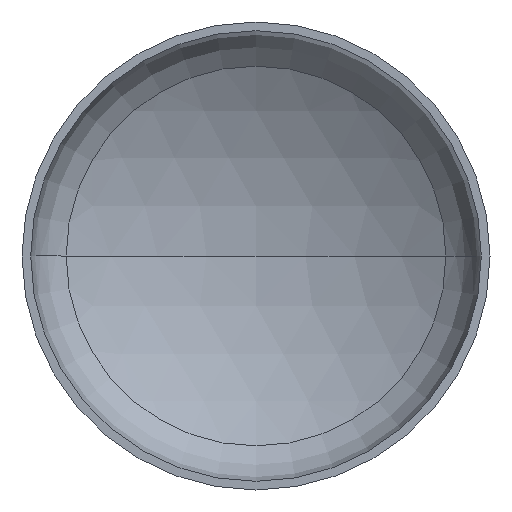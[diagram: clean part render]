
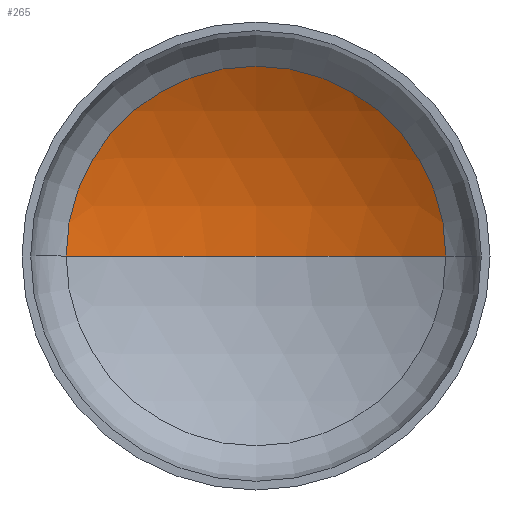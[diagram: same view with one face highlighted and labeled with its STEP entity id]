
A CAD part, front view. The second image highlights one B-rep face of the part: STEP entity #265.
In plain terms, the highlighted spherical face has radius 1120 mm.
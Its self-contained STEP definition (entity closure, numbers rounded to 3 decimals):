
#4 = VERTEX_POINT ( 'NONE', #245 ) ;
#11 = AXIS2_PLACEMENT_3D ( 'NONE', #378, #165, #96 ) ;
#18 = ORIENTED_EDGE ( 'NONE', *, *, #148, .T. ) ;
#20 = EDGE_LOOP ( 'NONE', ( #217, #28, #18 ) ) ;
#28 = ORIENTED_EDGE ( 'NONE', *, *, #157, .T. ) ;
#29 = AXIS2_PLACEMENT_3D ( 'NONE', #184, #69, #381 ) ;
#39 = VERTEX_POINT ( 'NONE', #237 ) ;
#42 = AXIS2_PLACEMENT_3D ( 'NONE', #276, #274, #236 ) ;
#49 = AXIS2_PLACEMENT_3D ( 'NONE', #208, #209, #257 ) ;
#68 = VERTEX_POINT ( 'NONE', #214 ) ;
#69 = DIRECTION ( 'NONE',  ( 0., 0., -1. ) ) ;
#96 = DIRECTION ( 'NONE',  ( 1., 0., 0. ) ) ;
#148 = EDGE_CURVE ( 'NONE', #39, #68, #299, .T. ) ;
#157 = EDGE_CURVE ( 'NONE', #4, #39, #238, .T. ) ;
#159 = FACE_OUTER_BOUND ( 'NONE', #20, .T. ) ;
#165 = DIRECTION ( 'NONE',  ( 0., 0., 1. ) ) ;
#184 = CARTESIAN_POINT ( 'NONE',  ( 0., -694.964, 0. ) ) ;
#208 = CARTESIAN_POINT ( 'NONE',  ( 0., 270.295, 0. ) ) ;
#209 = DIRECTION ( 'NONE',  ( 0., -1., 0. ) ) ;
#214 = CARTESIAN_POINT ( 'NONE',  ( -568.044, 270.295, 0. ) ) ;
#217 = ORIENTED_EDGE ( 'NONE', *, *, #356, .F. ) ;
#236 = DIRECTION ( 'NONE',  ( -1., 0., 0. ) ) ;
#237 = CARTESIAN_POINT ( 'NONE',  ( 568.044, 270.295, 0. ) ) ;
#238 = CIRCLE ( 'NONE', #42, 1120. ) ;
#245 = CARTESIAN_POINT ( 'NONE',  ( 0., 425.036, 0. ) ) ;
#257 = DIRECTION ( 'NONE',  ( 1., 0., 0. ) ) ;
#265 = ADVANCED_FACE ( 'NONE', ( #159 ), #353, .F. ) ;
#274 = DIRECTION ( 'NONE',  ( 0., 0., -1. ) ) ;
#276 = CARTESIAN_POINT ( 'NONE',  ( 0., -694.964, 0. ) ) ;
#299 = CIRCLE ( 'NONE', #49, 568.044 ) ;
#353 = SPHERICAL_SURFACE ( 'NONE', #29, 1120. ) ;
#356 = EDGE_CURVE ( 'NONE', #4, #68, #390, .T. ) ;
#378 = CARTESIAN_POINT ( 'NONE',  ( 0., -694.964, 0. ) ) ;
#381 = DIRECTION ( 'NONE',  ( -1., 0., 0. ) ) ;
#390 = CIRCLE ( 'NONE', #11, 1120. ) ;
